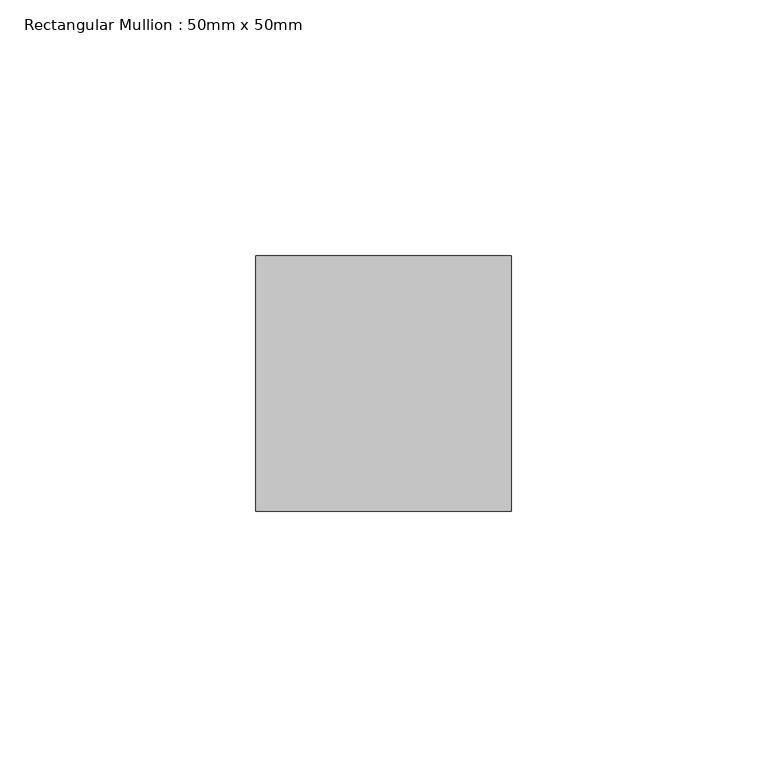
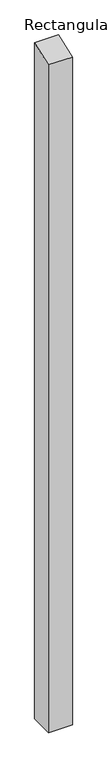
"""IFC4 building model written with IfcOpenShell, lengths in millimetres: member geometry, Rectangular Mullion : 50mm x 50mm."""

from ifc_helpers import new_model, si_unit, frame, origin, place, context, project, spatial, polyline, outline, extrude, source, transform, mapped, element, save


def rectangular_mullion_50mm_x_50mm_f05de876(model_context):
    return source(origin(), model_context, "Body", "SweptSolid", [
        extrude(outline(polyline([(-25.0, -9.3435582), (25.0, 9.3435582), (25.0, -1487.741205), (-25.0, -1487.741205), (-25.0, -9.3435582)])), frame((-50.0, 0.0, 0.0), z_axis=(1.0, 0.0, 0.0), x_axis=(0.0, 1.0, 0.0)), (0.0, 0.0, 1.0), 50.0),
    ])


if __name__ == "__main__":
    model = new_model("IFC4")
    model_context = context("Model", 3, world=origin())
    ifc_project = project(units=[si_unit("LENGTHUNIT", "METRE", prefix="MILLI")], contexts=[model_context])
    site = spatial("IfcSite", under=ifc_project)
    building = spatial("IfcBuilding", under=site)
    placement = place(None, origin())
    rectangular_mullion_50mm_x_50mm_shape = rectangular_mullion_50mm_x_50mm_f05de876(model_context)
    element("IfcMember", 1, ObjectType="Rectangular Mullion : 50mm x 50mm", at=placement, inside=building, context=model_context, shape_type="MappedRepresentation", body=[
        mapped(rectangular_mullion_50mm_x_50mm_shape, transform((0.0, 0.0, 0.0), x_axis=(1.0, 0.0, 0.0), y_axis=(0.0, 1.0, 0.0), z_axis=(0.0, 0.0, 1.0))),
    ])
    save(model, "model.ifc")
